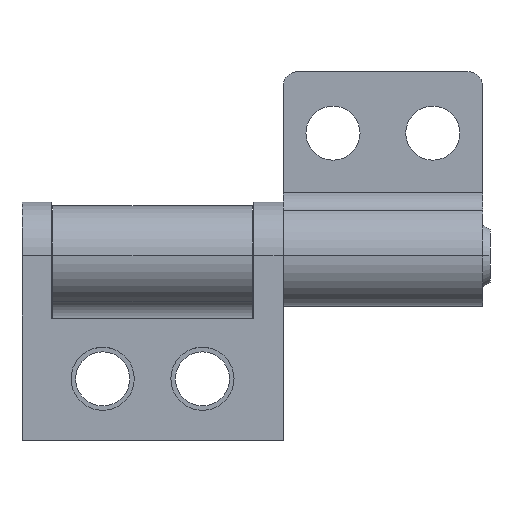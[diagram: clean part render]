
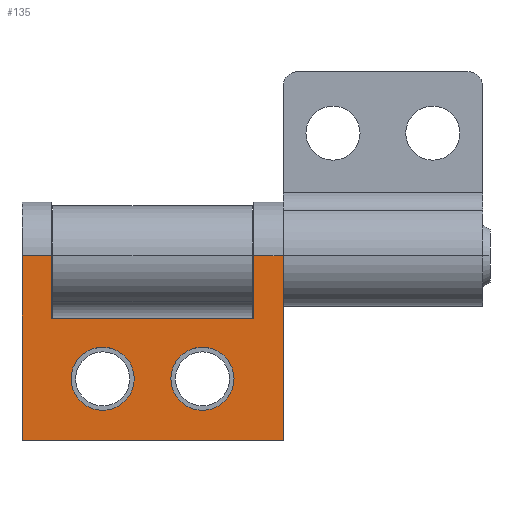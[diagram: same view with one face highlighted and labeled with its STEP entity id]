
A CAD part, top view. The second image highlights one B-rep face of the part: STEP entity #135.
In plain terms, the highlighted planar face has unit normal (0, 0, 1).
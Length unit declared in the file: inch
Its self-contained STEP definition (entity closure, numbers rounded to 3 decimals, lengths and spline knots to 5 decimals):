
#135=ADVANCED_FACE('',(#329,#330,#331),#332,.T.);
#329=FACE_BOUND('',#616,.T.);
#330=FACE_BOUND('',#617,.T.);
#331=FACE_OUTER_BOUND('',#618,.T.);
#332=PLANE('',#619);
#616=EDGE_LOOP('',(#884,#885));
#617=EDGE_LOOP('',(#886,#887));
#618=EDGE_LOOP('',(#888,#889,#890,#891,#892,#893,#894,#895));
#619=AXIS2_PLACEMENT_3D('',#896,#897,#898);
#884=ORIENTED_EDGE('',*,*,#1641,.T.);
#885=ORIENTED_EDGE('',*,*,#1642,.T.);
#886=ORIENTED_EDGE('',*,*,#1643,.T.);
#887=ORIENTED_EDGE('',*,*,#1637,.T.);
#888=ORIENTED_EDGE('',*,*,#1644,.T.);
#889=ORIENTED_EDGE('',*,*,#1645,.F.);
#890=ORIENTED_EDGE('',*,*,#1646,.T.);
#891=ORIENTED_EDGE('',*,*,#1647,.T.);
#892=ORIENTED_EDGE('',*,*,#1648,.T.);
#893=ORIENTED_EDGE('',*,*,#1649,.F.);
#894=ORIENTED_EDGE('',*,*,#1650,.T.);
#895=ORIENTED_EDGE('',*,*,#1651,.T.);
#896=CARTESIAN_POINT('',(-1.45806,-4.6875,0.109));
#897=DIRECTION('',(0.,0.,1.0));
#898=DIRECTION('',(0.,-1.0,0.));
#1637=EDGE_CURVE('',#1937,#1935,#1938,.T.);
#1641=EDGE_CURVE('',#1943,#1944,#1945,.T.);
#1642=EDGE_CURVE('',#1944,#1943,#1946,.T.);
#1643=EDGE_CURVE('',#1935,#1937,#1947,.T.);
#1644=EDGE_CURVE('',#1948,#1949,#1950,.T.);
#1645=EDGE_CURVE('',#1951,#1949,#1952,.T.);
#1646=EDGE_CURVE('',#1951,#1953,#1954,.T.);
#1647=EDGE_CURVE('',#1953,#1955,#1956,.T.);
#1648=EDGE_CURVE('',#1955,#1957,#1958,.T.);
#1649=EDGE_CURVE('',#1959,#1957,#1960,.T.);
#1650=EDGE_CURVE('',#1959,#1961,#1962,.T.);
#1651=EDGE_CURVE('',#1961,#1948,#1963,.T.);
#1935=VERTEX_POINT('',#2375);
#1937=VERTEX_POINT('',#2378);
#1938=CIRCLE('',#2379,0.06425);
#1943=VERTEX_POINT('',#2385);
#1944=VERTEX_POINT('',#2386);
#1945=CIRCLE('',#2387,0.06425);
#1946=CIRCLE('',#2388,0.06425);
#1947=CIRCLE('',#2389,0.06425);
#1948=VERTEX_POINT('',#2390);
#1949=VERTEX_POINT('',#2391);
#1950=LINE('',#2392,#2393);
#1951=VERTEX_POINT('',#2394);
#1952=LINE('',#2395,#2396);
#1953=VERTEX_POINT('',#2397);
#1954=LINE('',#2398,#2399);
#1955=VERTEX_POINT('',#2400);
#1956=LINE('',#2401,#2402);
#1957=VERTEX_POINT('',#2403);
#1958=LINE('',#2404,#2405);
#1959=VERTEX_POINT('',#2406);
#1960=LINE('',#2407,#2408);
#1961=VERTEX_POINT('',#2409);
#1962=LINE('',#2410,#2411);
#1963=LINE('',#2412,#2413);
#2375=CARTESIAN_POINT('',(-1.29391,-4.68575,0.109));
#2378=CARTESIAN_POINT('',(-1.29391,-4.81425,0.109));
#2379=AXIS2_PLACEMENT_3D('',#2934,#2935,#2936);
#2385=CARTESIAN_POINT('',(-1.09091,-4.68575,0.109));
#2386=CARTESIAN_POINT('',(-1.09091,-4.81425,0.109));
#2387=AXIS2_PLACEMENT_3D('',#2941,#2942,#2943);
#2388=AXIS2_PLACEMENT_3D('',#2944,#2945,#2946);
#2389=AXIS2_PLACEMENT_3D('',#2947,#2948,#2949);
#2390=CARTESIAN_POINT('',(-1.39841,-4.6283,0.109));
#2391=CARTESIAN_POINT('',(-1.39841,-4.5,0.109));
#2392=CARTESIAN_POINT('',(-1.39841,-4.56275,0.109));
#2393=VECTOR('',#2950,0.3937);
#2394=CARTESIAN_POINT('',(-1.45806,-4.5,0.109));
#2395=CARTESIAN_POINT('',(-1.45806,-4.5,0.109));
#2396=VECTOR('',#2951,0.3937);
#2397=CARTESIAN_POINT('',(-1.45806,-4.875,0.109));
#2398=CARTESIAN_POINT('',(-1.45806,-4.5,0.109));
#2399=VECTOR('',#2952,0.3937);
#2400=CARTESIAN_POINT('',(-0.92676,-4.875,0.109));
#2401=CARTESIAN_POINT('',(-1.45806,-4.875,0.109));
#2402=VECTOR('',#2953,0.3937);
#2403=CARTESIAN_POINT('',(-0.92676,-4.5,0.109));
#2404=CARTESIAN_POINT('',(-0.92676,-4.5,0.109));
#2405=VECTOR('',#2954,0.3937);
#2406=CARTESIAN_POINT('',(-0.98641,-4.5,0.109));
#2407=CARTESIAN_POINT('',(-1.45806,-4.5,0.109));
#2408=VECTOR('',#2955,0.3937);
#2409=CARTESIAN_POINT('',(-0.98641,-4.6283,0.109));
#2410=CARTESIAN_POINT('',(-0.98641,-4.56275,0.109));
#2411=VECTOR('',#2956,0.3937);
#2412=CARTESIAN_POINT('',(-1.42823,-4.6283,0.109));
#2413=VECTOR('',#2957,0.3937);
#2934=CARTESIAN_POINT('',(-1.29391,-4.75,0.109));
#2935=DIRECTION('',(0.,0.,-1.0));
#2936=DIRECTION('',(0.,1.0,0.));
#2941=CARTESIAN_POINT('',(-1.09091,-4.75,0.109));
#2942=DIRECTION('',(0.,0.,-1.0));
#2943=DIRECTION('',(0.,1.0,0.));
#2944=CARTESIAN_POINT('',(-1.09091,-4.75,0.109));
#2945=DIRECTION('',(0.,0.,-1.0));
#2946=DIRECTION('',(0.,1.0,0.));
#2947=CARTESIAN_POINT('',(-1.29391,-4.75,0.109));
#2948=DIRECTION('',(0.,0.,-1.0));
#2949=DIRECTION('',(0.,1.0,0.));
#2950=DIRECTION('',(0.,1.0,0.));
#2951=DIRECTION('',(1.0,0.0,0.));
#2952=DIRECTION('',(0.,-1.0,0.));
#2953=DIRECTION('',(1.0,0.0,0.));
#2954=DIRECTION('',(0.,1.0,0.));
#2955=DIRECTION('',(1.0,0.0,0.));
#2956=DIRECTION('',(0.,-1.0,0.));
#2957=DIRECTION('',(-1.0,0.,0.));
